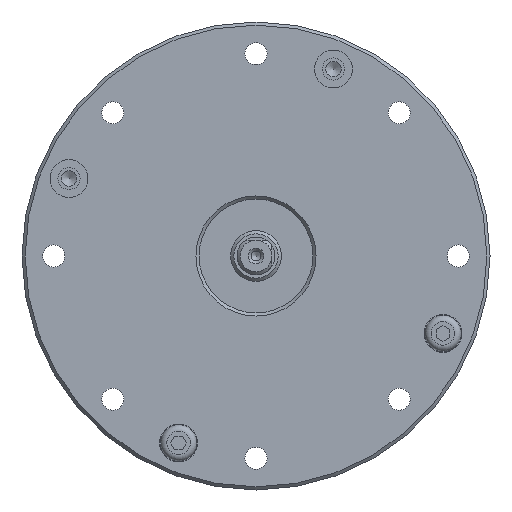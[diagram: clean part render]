
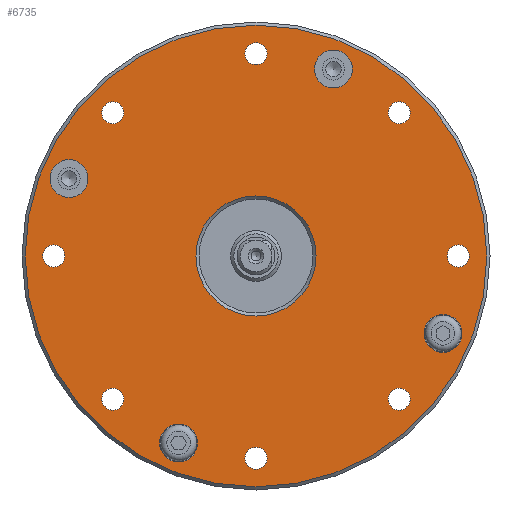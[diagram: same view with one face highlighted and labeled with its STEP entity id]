
A CAD part, front view. The second image highlights one B-rep face of the part: STEP entity #6735.
In plain terms, the highlighted planar face has unit normal (0, -1, 0).
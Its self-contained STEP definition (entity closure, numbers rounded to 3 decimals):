
#766=PLANE('',#9398);
#1088=FACE_OUTER_BOUND('',#2180,.T.);
#2168=EDGE_LOOP('',(#3832));
#2169=EDGE_LOOP('',(#3833));
#2170=EDGE_LOOP('',(#3834));
#2171=EDGE_LOOP('',(#3835));
#2172=EDGE_LOOP('',(#3836));
#2173=EDGE_LOOP('',(#3837));
#2174=EDGE_LOOP('',(#3838));
#2175=EDGE_LOOP('',(#3839));
#2176=EDGE_LOOP('',(#3840));
#2177=EDGE_LOOP('',(#3841));
#2178=EDGE_LOOP('',(#3842));
#2179=EDGE_LOOP('',(#3843));
#2180=EDGE_LOOP('',(#3844));
#2181=EDGE_LOOP('',(#3845));
#3832=ORIENTED_EDGE('',*,*,#4814,.T.);
#3833=ORIENTED_EDGE('',*,*,#4818,.T.);
#3834=ORIENTED_EDGE('',*,*,#4822,.T.);
#3835=ORIENTED_EDGE('',*,*,#4826,.T.);
#3836=ORIENTED_EDGE('',*,*,#4828,.T.);
#3837=ORIENTED_EDGE('',*,*,#4830,.T.);
#3838=ORIENTED_EDGE('',*,*,#4832,.T.);
#3839=ORIENTED_EDGE('',*,*,#4834,.T.);
#3840=ORIENTED_EDGE('',*,*,#4836,.T.);
#3841=ORIENTED_EDGE('',*,*,#4838,.T.);
#3842=ORIENTED_EDGE('',*,*,#4843,.T.);
#3843=ORIENTED_EDGE('',*,*,#4844,.T.);
#3844=ORIENTED_EDGE('',*,*,#4845,.T.);
#3845=ORIENTED_EDGE('',*,*,#4846,.T.);
#4814=EDGE_CURVE('',#8235,#8235,#5471,.T.);
#4818=EDGE_CURVE('',#8239,#8239,#5475,.T.);
#4822=EDGE_CURVE('',#8243,#8243,#5479,.T.);
#4826=EDGE_CURVE('',#8247,#8247,#5483,.T.);
#4828=EDGE_CURVE('',#8249,#8249,#5485,.T.);
#4830=EDGE_CURVE('',#8251,#8251,#5487,.T.);
#4832=EDGE_CURVE('',#8253,#8253,#5489,.T.);
#4834=EDGE_CURVE('',#8255,#8255,#5491,.T.);
#4836=EDGE_CURVE('',#8257,#8257,#5493,.T.);
#4838=EDGE_CURVE('',#8259,#8259,#5495,.T.);
#4843=EDGE_CURVE('',#8264,#8264,#5500,.T.);
#4844=EDGE_CURVE('',#8265,#8265,#5501,.T.);
#4845=EDGE_CURVE('',#8266,#8266,#5502,.T.);
#4846=EDGE_CURVE('',#8267,#8267,#5503,.T.);
#5471=CIRCLE('',#9347,3.);
#5475=CIRCLE('',#9354,3.);
#5479=CIRCLE('',#9361,3.);
#5483=CIRCLE('',#9368,1.75);
#5485=CIRCLE('',#9371,1.75);
#5487=CIRCLE('',#9374,1.75);
#5489=CIRCLE('',#9377,1.75);
#5491=CIRCLE('',#9380,1.75);
#5493=CIRCLE('',#9383,1.75);
#5495=CIRCLE('',#9386,1.75);
#5500=CIRCLE('',#9394,1.75);
#5501=CIRCLE('',#9395,3.);
#5502=CIRCLE('',#9396,36.5);
#5503=CIRCLE('',#9397,9.5);
#6735=ADVANCED_FACE('',(#7405,#7406,#7407,#7408,#7409,#7410,#7411,#7412,
#7413,#7414,#7415,#7416,#1088,#7417),#766,.T.);
#7405=FACE_BOUND('',#2168,.T.);
#7406=FACE_BOUND('',#2169,.T.);
#7407=FACE_BOUND('',#2170,.T.);
#7408=FACE_BOUND('',#2171,.T.);
#7409=FACE_BOUND('',#2172,.T.);
#7410=FACE_BOUND('',#2173,.T.);
#7411=FACE_BOUND('',#2174,.T.);
#7412=FACE_BOUND('',#2175,.T.);
#7413=FACE_BOUND('',#2176,.T.);
#7414=FACE_BOUND('',#2177,.T.);
#7415=FACE_BOUND('',#2178,.T.);
#7416=FACE_BOUND('',#2179,.T.);
#7417=FACE_BOUND('',#2181,.T.);
#8235=VERTEX_POINT('',#14062);
#8239=VERTEX_POINT('',#14073);
#8243=VERTEX_POINT('',#14084);
#8247=VERTEX_POINT('',#14095);
#8249=VERTEX_POINT('',#14100);
#8251=VERTEX_POINT('',#14105);
#8253=VERTEX_POINT('',#14110);
#8255=VERTEX_POINT('',#14115);
#8257=VERTEX_POINT('',#14120);
#8259=VERTEX_POINT('',#14125);
#8264=VERTEX_POINT('',#14138);
#8265=VERTEX_POINT('',#14140);
#8266=VERTEX_POINT('',#14142);
#8267=VERTEX_POINT('',#14144);
#9347=AXIS2_PLACEMENT_3D('',#14061,#11731,#11732);
#9354=AXIS2_PLACEMENT_3D('',#14072,#11745,#11746);
#9361=AXIS2_PLACEMENT_3D('',#14083,#11759,#11760);
#9368=AXIS2_PLACEMENT_3D('',#14094,#11773,#11774);
#9371=AXIS2_PLACEMENT_3D('',#14099,#11779,#11780);
#9374=AXIS2_PLACEMENT_3D('',#14104,#11785,#11786);
#9377=AXIS2_PLACEMENT_3D('',#14109,#11791,#11792);
#9380=AXIS2_PLACEMENT_3D('',#14114,#11797,#11798);
#9383=AXIS2_PLACEMENT_3D('',#14119,#11803,#11804);
#9386=AXIS2_PLACEMENT_3D('',#14124,#11809,#11810);
#9394=AXIS2_PLACEMENT_3D('',#14137,#11825,#11826);
#9395=AXIS2_PLACEMENT_3D('',#14139,#11827,#11828);
#9396=AXIS2_PLACEMENT_3D('',#14141,#11829,#11830);
#9397=AXIS2_PLACEMENT_3D('',#14143,#11831,#11832);
#9398=AXIS2_PLACEMENT_3D('',#14145,#11833,#11834);
#11731=DIRECTION('',(0.,1.,0.));
#11732=DIRECTION('',(1.,0.,0.));
#11745=DIRECTION('',(0.,1.,0.));
#11746=DIRECTION('',(0.,0.,-1.));
#11759=DIRECTION('',(0.,1.,0.));
#11760=DIRECTION('',(-1.,0.,0.));
#11773=DIRECTION('',(0.,1.,0.));
#11774=DIRECTION('',(0.707,0.,0.707));
#11779=DIRECTION('',(0.,1.,0.));
#11780=DIRECTION('',(1.,0.,0.));
#11785=DIRECTION('',(0.,1.,0.));
#11786=DIRECTION('',(0.707,0.,-0.707));
#11791=DIRECTION('',(0.,1.,0.));
#11792=DIRECTION('',(0.,0.,-1.));
#11797=DIRECTION('',(0.,1.,0.));
#11798=DIRECTION('',(-0.707,0.,-0.707));
#11803=DIRECTION('',(0.,1.,0.));
#11804=DIRECTION('',(-1.,0.,0.));
#11809=DIRECTION('',(0.,1.,0.));
#11810=DIRECTION('',(-0.707,0.,0.707));
#11825=DIRECTION('',(0.,1.,0.));
#11826=DIRECTION('',(0.,0.,1.));
#11827=DIRECTION('',(0.,1.,0.));
#11828=DIRECTION('',(0.,0.,1.));
#11829=DIRECTION('',(0.,-1.,0.));
#11830=DIRECTION('',(0.,0.,-1.));
#11831=DIRECTION('',(0.,1.,0.));
#11832=DIRECTION('',(0.,0.,-1.));
#11833=DIRECTION('',(0.,-1.,0.));
#11834=DIRECTION('',(0.,0.,-1.));
#14061=CARTESIAN_POINT('',(29.564,-27.5,-12.246));
#14062=CARTESIAN_POINT('',(32.564,-27.5,-12.246));
#14072=CARTESIAN_POINT('',(-12.246,-27.5,-29.564));
#14073=CARTESIAN_POINT('',(-12.246,-27.5,-32.564));
#14083=CARTESIAN_POINT('',(-29.564,-27.5,12.246));
#14084=CARTESIAN_POINT('',(-32.564,-27.5,12.246));
#14094=CARTESIAN_POINT('',(22.627,-27.5,22.627));
#14095=CARTESIAN_POINT('',(23.865,-27.5,23.865));
#14099=CARTESIAN_POINT('',(32.,-27.5,0.));
#14100=CARTESIAN_POINT('',(33.75,-27.5,0.));
#14104=CARTESIAN_POINT('',(22.627,-27.5,-22.627));
#14105=CARTESIAN_POINT('',(23.865,-27.5,-23.865));
#14109=CARTESIAN_POINT('',(0.,-27.5,-32.));
#14110=CARTESIAN_POINT('',(0.,-27.5,-33.75));
#14114=CARTESIAN_POINT('',(-22.627,-27.5,-22.627));
#14115=CARTESIAN_POINT('',(-23.865,-27.5,-23.865));
#14119=CARTESIAN_POINT('',(-32.,-27.5,0.));
#14120=CARTESIAN_POINT('',(-33.75,-27.5,0.));
#14124=CARTESIAN_POINT('',(-22.627,-27.5,22.627));
#14125=CARTESIAN_POINT('',(-23.865,-27.5,23.865));
#14137=CARTESIAN_POINT('',(0.,-27.5,32.));
#14138=CARTESIAN_POINT('',(0.,-27.5,33.75));
#14139=CARTESIAN_POINT('',(12.246,-27.5,29.564));
#14140=CARTESIAN_POINT('',(12.246,-27.5,32.564));
#14141=CARTESIAN_POINT('',(0.,-27.5,0.));
#14142=CARTESIAN_POINT('',(0.,-27.5,-36.5));
#14143=CARTESIAN_POINT('',(0.,-27.5,0.));
#14144=CARTESIAN_POINT('',(0.,-27.5,-9.5));
#14145=CARTESIAN_POINT('',(0.,-27.5,0.));
